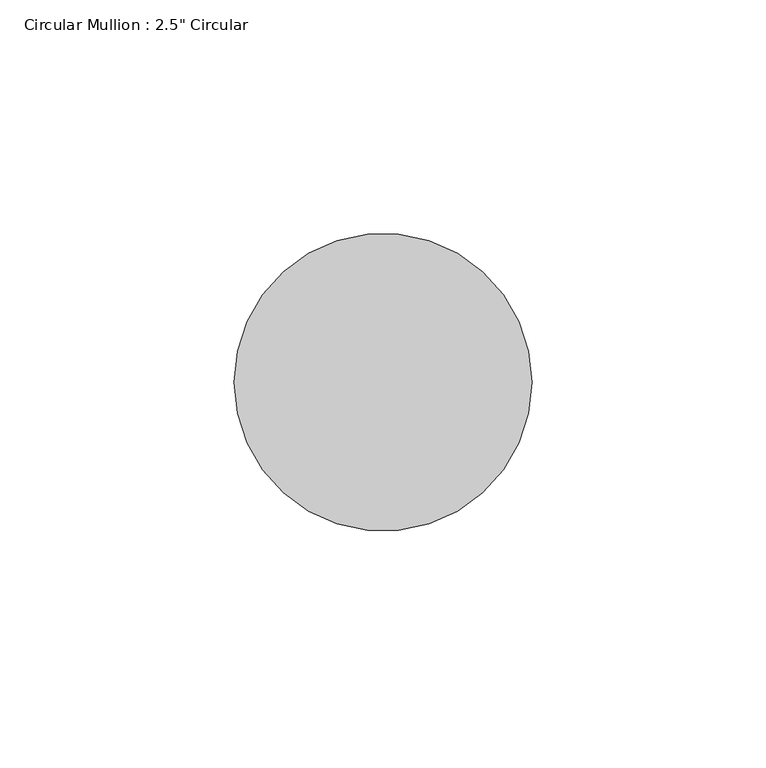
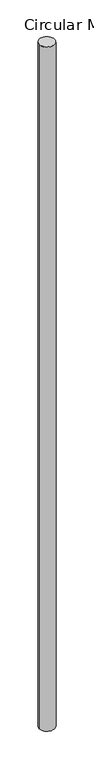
"""IFC4 building model written with IfcOpenShell, lengths in millimetres: member geometry."""

from ifc_helpers import new_model, si_unit, point, frame, origin, origin_2d, place, context, project, spatial, circle_curve, trimmed, segment, composite_curve, outline, extrude, source, transform, mapped, element, save


def member_fce9cc7b(model_context):
    return source(origin(), model_context, "Body", "SweptSolid", [
        extrude(outline(composite_curve([segment(trimmed(circle_curve(origin_2d(), 31.75), [point((31.75, 0.0))], [point((-31.75, 0.0))], False, "CARTESIAN"), True, "CONTINUOUS"), segment(trimmed(circle_curve(origin_2d(), 31.75), [point((-31.75, 0.0))], [point((31.75, 0.0))], False, "CARTESIAN"), True, "CONTINUOUS")], self_intersect=False)), frame((0.0, 0.0, -2965.0545271), z_axis=(0.0, 0.0, 1.0), x_axis=(1.0, 0.0, 0.0)), (0.0, 0.0, 1.0), 2965.0545271),
    ])


if __name__ == "__main__":
    model = new_model("IFC4")
    model_context = context("Model", 3, world=origin())
    ifc_project = project(units=[si_unit("LENGTHUNIT", "METRE", prefix="MILLI")], contexts=[model_context])
    site = spatial("IfcSite", under=ifc_project)
    building = spatial("IfcBuilding", under=site)
    placement = place(None, origin())
    member_shape = member_fce9cc7b(model_context)
    element("IfcMember", 1, ObjectType="Circular Mullion : 2.5\" Circular", at=placement, inside=building, context=model_context, shape_type="MappedRepresentation", body=[
        mapped(member_shape, transform((0.0, 0.0, 0.0), x_axis=(1.0, 0.0, 0.0), y_axis=(0.0, 1.0, 0.0), z_axis=(0.0, 0.0, 1.0))),
    ])
    save(model, "model.ifc")
